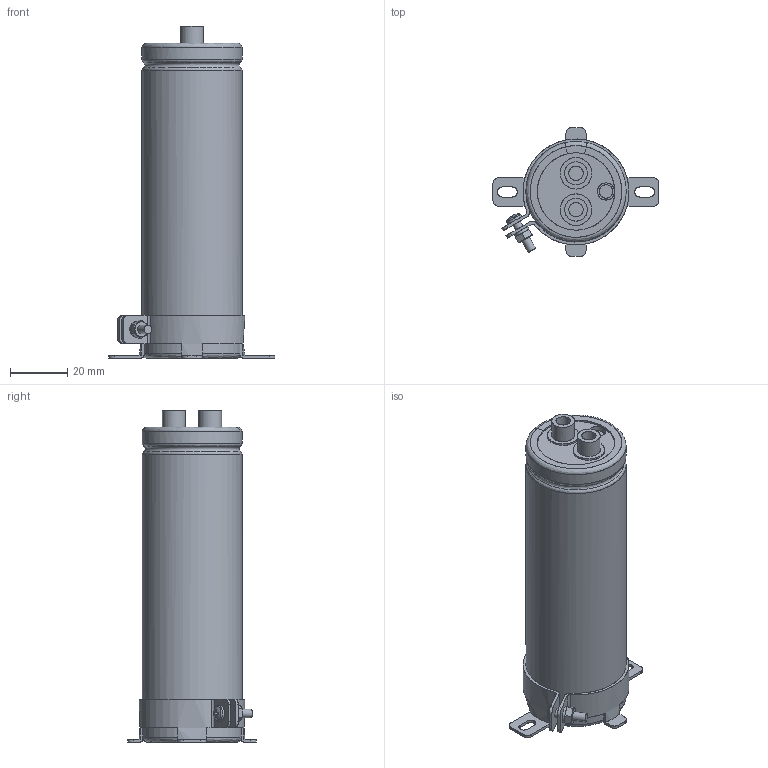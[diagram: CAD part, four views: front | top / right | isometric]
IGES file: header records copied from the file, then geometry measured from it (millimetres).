
Start section: JAMA-IS VERSION  1.0
Bounding box: 58 x 45 x 116 mm (x, y, z)
Surface area: 43745.8 mm2 (no closed solid volume)
Topology: 0 solids, 0 shells, 171 faces, 3555 edges, 3522 vertices
Faces by surface type: bspline 171
